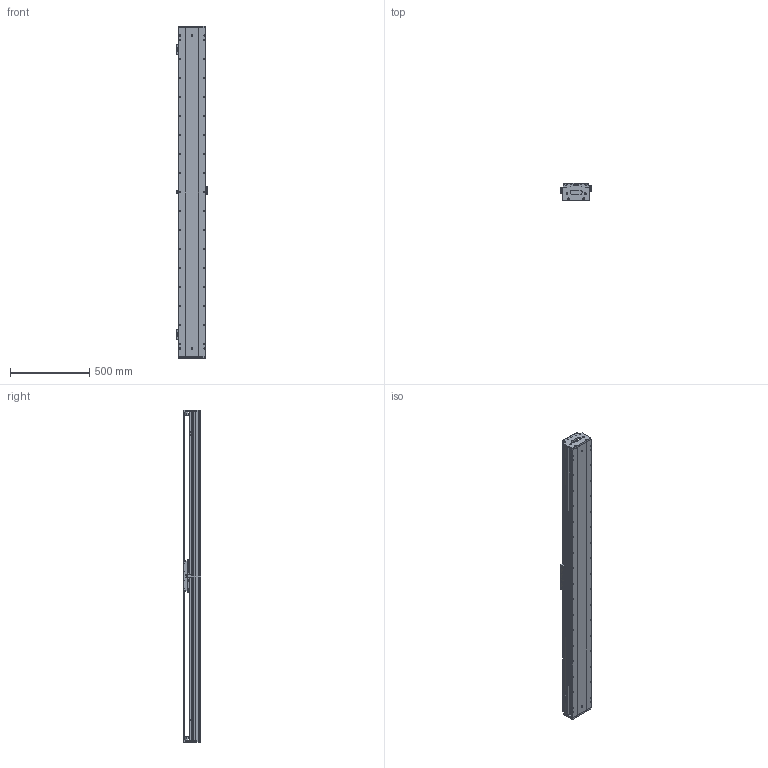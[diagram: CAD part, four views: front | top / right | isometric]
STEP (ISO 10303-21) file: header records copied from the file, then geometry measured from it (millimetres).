
FILE_DESCRIPTION (( 'STEP AP203' ), '1' );
FILE_NAME ('DKW168-C2-W090（T1800-L005-0.2）.STEP', '2021-09-10T00:54:54', ( '微软用户' ), ( '微软中国' ), 'SwSTEP 2.0', 'SolidWorks 2018', '' );
FILE_SCHEMA (( 'CONFIG_CONTROL_DESIGN' ));
Length unit declared in the file: millimetre
Products named in the file (22): DKW168-C2-W090（T1800-L005-0.2）; Ru2; 砎蝶猾沭; RUS嫖掑郪璃; 10392-0001-003-00 詩湍嶺輸; pm-y65; 10392-0001-004-00 詩湍揤輸; 10980-0001-003-00 嫖萇羲壽嘐隅釱; 10279-0001-006-00 嶺輸菜輸; 10392-0001-001-00 菁釱; 嫖萇羲壽蚾饜极; DKW168 单轴模组-拉钢带组件; MSA20絳寢; DKW-SG-GYP-H-00 嫖萇覜茼え; CKM01-W090-TRL280; 10279-0001-003-00 傷啣; 嫖萇羲壽蚾饜极A; DKW168-RU-DTJ-00 RU2黍杅芛盓殤; DKW168-HXJ-00 遣喳砎蝶; C2-W090_00; RUS嫖掑喜; 10392-0001-002-00 詩湍裔啣
Assembly tree (33 placements, depth 3):
  DKW168-C2-W090（T1800-L005-0.2）
    10392-0001-001-00 菁釱
    MSA20絳寢  x2
    DKW168 单轴模组-拉钢带组件
      10279-0001-003-00 傷啣  x2
      DKW168-HXJ-00 遣喳砎蝶  x4
      10392-0001-002-00 詩湍裔啣
      砎蝶猾沭  x2
      10392-0001-003-00 詩湍嶺輸  x2
      10392-0001-004-00 詩湍揤輸  x2
      10279-0001-006-00 嶺輸菜輸  x2
    CKM01-W090-TRL280
    DKW168-RU-DTJ-00 RU2黍杅芛盓殤
    RUS嫖掑郪璃
      RUS嫖掑喜
      Ru2
    嫖萇羲壽蚾饜极
      pm-y65
      10980-0001-003-00 嫖萇羲壽嘐隅釱
    DKW-SG-GYP-H-00 嫖萇覜茼え
    嫖萇羲壽蚾饜极A
      pm-y65  x2
      10980-0001-003-00 嫖萇羲壽嘐隅釱
    C2-W090_00
Bounding box: 202.3 x 109 x 2100 mm (x, y, z)
Volume: 13702459.6 mm3; surface area: 4056156.4 mm2
Topology: 48 solids, 97 shells, 4741 faces, 12407 edges, 7939 vertices
Faces by surface type: plane 2428, cylinder 1544, cone 458, bspline 279, torus 16, sphere 16
Entity records: 143855 total; most frequent: CARTESIAN_POINT 45877, ORIENTED_EDGE 19971, DIRECTION 19011, EDGE_CURVE 10026, VERTEX_POINT 6507, AXIS2_PLACEMENT_3D 6394, VECTOR 6223, LINE 6223
